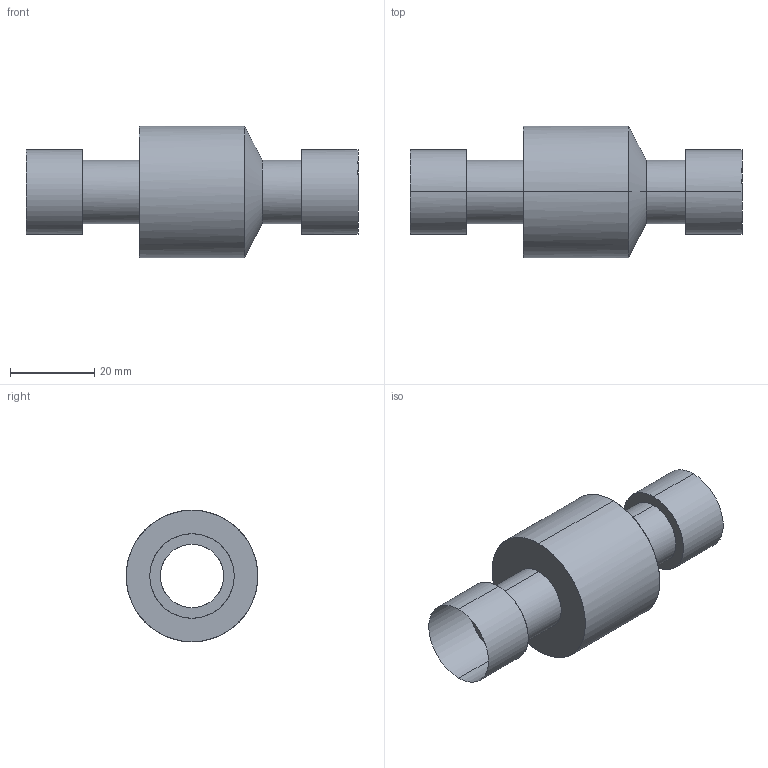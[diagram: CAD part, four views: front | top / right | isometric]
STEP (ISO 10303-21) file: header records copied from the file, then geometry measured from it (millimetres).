
FILE_DESCRIPTION(('Open CASCADE Model'),'2;1');
FILE_NAME('Open CASCADE Shape Model','2019-05-09T11:08:25',('Author'),( 'Open CASCADE'),'Open CASCADE STEP processor 6.9','Open CASCADE 6.9' ,'Unknown');
FILE_SCHEMA(('AUTOMOTIVE_DESIGN { 1 0 10303 214 1 1 1 1 }'));
Length unit declared in the file: millimetre
Products named in the file (16): XFlow STEP translator 5; XFlow STEP translator 5.1; XFlow STEP translator 5.2; XFlow STEP translator 5.3; XFlow STEP translator 5.4; XFlow STEP translator 5.5; XFlow STEP translator 5.6; XFlow STEP translator 5.7; XFlow STEP translator 5.8; XFlow STEP translator 5.9; XFlow STEP translator 5.10; XFlow STEP translator 5.11; XFlow STEP translator 5.12; XFlow STEP translator 5.13; XFlow STEP translator 5.14; XFlow STEP translator 5.15
Assembly tree (15 placements, depth 2):
  XFlow STEP translator 5
    XFlow STEP translator 5.1
    XFlow STEP translator 5.2
    XFlow STEP translator 5.3
    XFlow STEP translator 5.4
    XFlow STEP translator 5.5
    XFlow STEP translator 5.6
    XFlow STEP translator 5.7
    XFlow STEP translator 5.8
    XFlow STEP translator 5.9
    XFlow STEP translator 5.10
    XFlow STEP translator 5.11
    XFlow STEP translator 5.12
    XFlow STEP translator 5.13
    XFlow STEP translator 5.14
    XFlow STEP translator 5.15
Bounding box: 78.68 x 31.17 x 31.2 mm (x, y, z)
Surface area: 6733 mm2 (no closed solid volume)
Topology: 0 solids, 15 shells, 15 faces, 60 edges, 60 vertices
Faces by surface type: bspline 15
Entity records: 1858 total; most frequent: CARTESIAN_POINT 1060, B_SPLINE_CURVE_WITH_KNOTS 84, ORIENTED_EDGE 60, EDGE_CURVE 60, VERTEX_POINT 60, SURFACE_CURVE 60, PCURVE 60, DEFINITIONAL_REPRESENTATION 60
